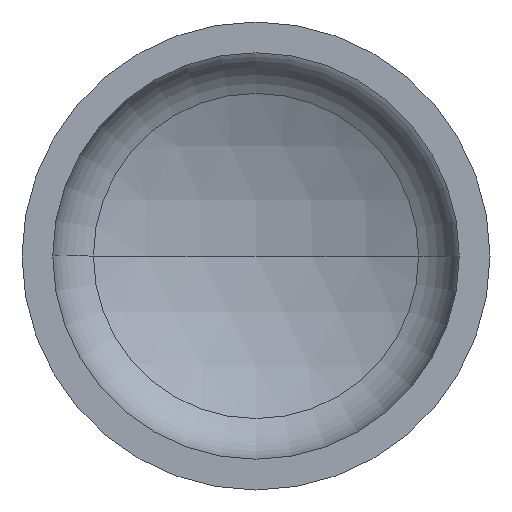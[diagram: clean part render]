
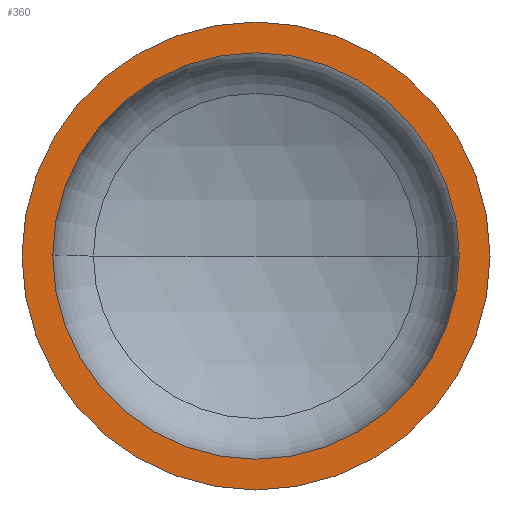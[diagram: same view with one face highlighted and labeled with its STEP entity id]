
A CAD part, front view. The second image highlights one B-rep face of the part: STEP entity #360.
In plain terms, the highlighted planar face has unit normal (0, -1, 0).
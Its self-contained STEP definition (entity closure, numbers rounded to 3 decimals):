
#3 = EDGE_LOOP ( 'NONE', ( #135, #163 ) ) ;
#5 = AXIS2_PLACEMENT_3D ( 'NONE', #220, #137, #139 ) ;
#7 = AXIS2_PLACEMENT_3D ( 'NONE', #200, #361, #230 ) ;
#18 = AXIS2_PLACEMENT_3D ( 'NONE', #174, #175, #157 ) ;
#66 = VERTEX_POINT ( 'NONE', #258 ) ;
#67 = ORIENTED_EDGE ( 'NONE', *, *, #346, .F. ) ;
#70 = AXIS2_PLACEMENT_3D ( 'NONE', #369, #370, #372 ) ;
#71 = AXIS2_PLACEMENT_3D ( 'NONE', #341, #340, #355 ) ;
#74 = CIRCLE ( 'NONE', #70, 608. ) ;
#76 = VERTEX_POINT ( 'NONE', #237 ) ;
#88 = EDGE_LOOP ( 'NONE', ( #124, #67 ) ) ;
#90 = VERTEX_POINT ( 'NONE', #324 ) ;
#96 = EDGE_CURVE ( 'NONE', #219, #66, #266, .T. ) ;
#99 = EDGE_CURVE ( 'NONE', #76, #90, #74, .T. ) ;
#124 = ORIENTED_EDGE ( 'NONE', *, *, #99, .F. ) ;
#135 = ORIENTED_EDGE ( 'NONE', *, *, #366, .T. ) ;
#137 = DIRECTION ( 'NONE',  ( 0., 1., 0. ) ) ;
#139 = DIRECTION ( 'NONE',  ( -1., 0., 0. ) ) ;
#157 = DIRECTION ( 'NONE',  ( 1., 0., 0. ) ) ;
#163 = ORIENTED_EDGE ( 'NONE', *, *, #96, .T. ) ;
#174 = CARTESIAN_POINT ( 'NONE',  ( 0., 0., 0. ) ) ;
#175 = DIRECTION ( 'NONE',  ( 0., -1., 0. ) ) ;
#200 = CARTESIAN_POINT ( 'NONE',  ( 0., 0., 0. ) ) ;
#204 = CIRCLE ( 'NONE', #7, 700. ) ;
#211 = FACE_BOUND ( 'NONE', #88, .T. ) ;
#219 = VERTEX_POINT ( 'NONE', #284 ) ;
#220 = CARTESIAN_POINT ( 'NONE',  ( -700., 0., 0. ) ) ;
#230 = DIRECTION ( 'NONE',  ( 1., 0., 0. ) ) ;
#237 = CARTESIAN_POINT ( 'NONE',  ( 608., 0., 0. ) ) ;
#240 = PLANE ( 'NONE',  #5 ) ;
#258 = CARTESIAN_POINT ( 'NONE',  ( 700., 0., 0. ) ) ;
#266 = CIRCLE ( 'NONE', #71, 700. ) ;
#272 = FACE_OUTER_BOUND ( 'NONE', #3, .T. ) ;
#284 = CARTESIAN_POINT ( 'NONE',  ( -700., 0., 0. ) ) ;
#324 = CARTESIAN_POINT ( 'NONE',  ( -608., 0., 0. ) ) ;
#331 = CIRCLE ( 'NONE', #18, 608. ) ;
#340 = DIRECTION ( 'NONE',  ( 0., -1., 0. ) ) ;
#341 = CARTESIAN_POINT ( 'NONE',  ( 0., 0., 0. ) ) ;
#346 = EDGE_CURVE ( 'NONE', #90, #76, #331, .T. ) ;
#355 = DIRECTION ( 'NONE',  ( 1., 0., 0. ) ) ;
#360 = ADVANCED_FACE ( 'NONE', ( #211, #272 ), #240, .F. ) ;
#361 = DIRECTION ( 'NONE',  ( 0., -1., 0. ) ) ;
#366 = EDGE_CURVE ( 'NONE', #66, #219, #204, .T. ) ;
#369 = CARTESIAN_POINT ( 'NONE',  ( 0., 0., 0. ) ) ;
#370 = DIRECTION ( 'NONE',  ( 0., -1., 0. ) ) ;
#372 = DIRECTION ( 'NONE',  ( 1., 0., 0. ) ) ;
